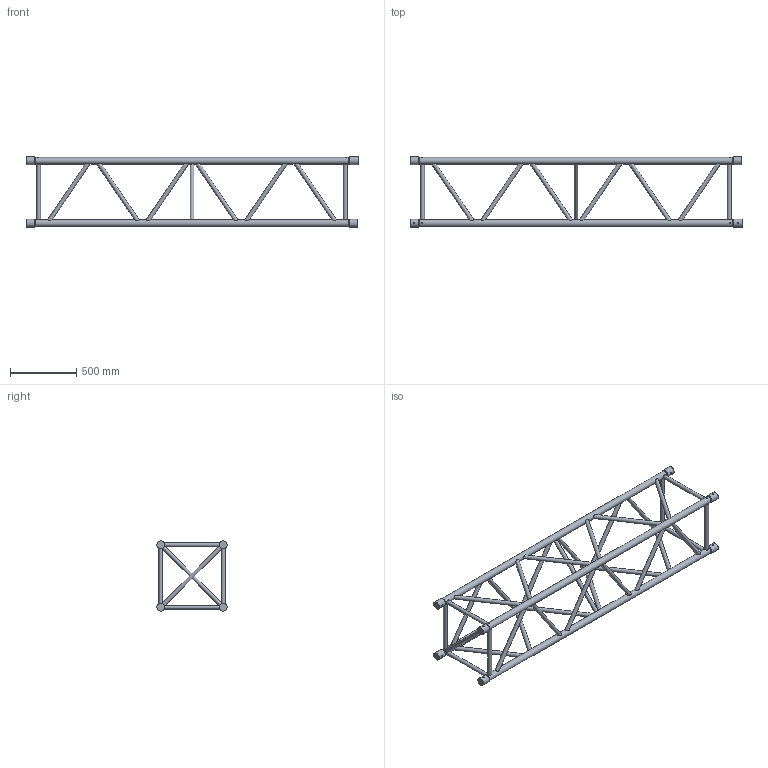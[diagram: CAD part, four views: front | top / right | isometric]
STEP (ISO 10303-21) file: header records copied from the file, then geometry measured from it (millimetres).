
FILE_DESCRIPTION(/* description */ (''),/* implementation_level */ '2;1');
FILE_NAME(/* name */ 'M:\Symbolen_NIEUW\STP\111110114.stp',/* time_stamp */ '2015-04-22T16:40:43+02:00',/* author */ ('Stephan'),/* organization */ (''),/* preprocessor_version */ 'ST-DEVELOPER v15.6',/* originating_system */ 'Autodesk Inventor 2015',/* authorisation */ '');
FILE_SCHEMA (('AUTOMOTIVE_DESIGN { 1 0 10303 214 3 1 1 }'));
Length unit declared in the file: millimetre
Products named in the file (1): 160024074
Bounding box: 2500 x 528.8 x 528.8 mm (x, y, z)
Volume: 17989399.7 mm3; surface area: 3271226 mm2
Topology: 4 solids, 7 shells, 351 faces, 945 edges, 612 vertices
Faces by surface type: plane 204, cylinder 107, cone 40
Full cylindrical faces by diameter (mm): 10 x8, 30 x35, 50 x4, 58.8 x8
Entity records: 13970 total; most frequent: CARTESIAN_POINT 5490, DIRECTION 1702, ORIENTED_EDGE 1616, AXIS2_PLACEMENT_3D 784, EDGE_CURVE 778, VERTEX_POINT 540, EDGE_LOOP 504, STYLED_ITEM 332
